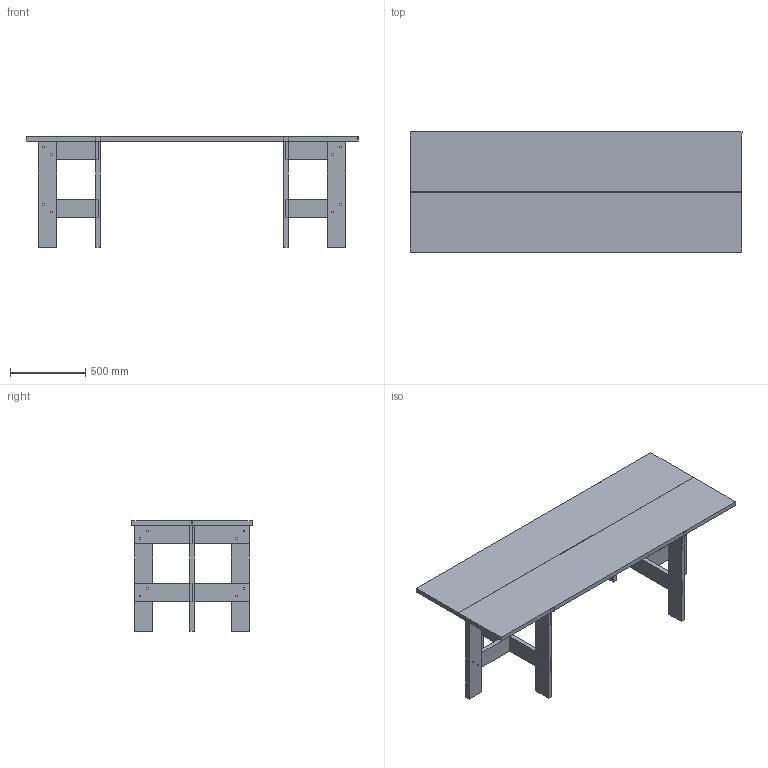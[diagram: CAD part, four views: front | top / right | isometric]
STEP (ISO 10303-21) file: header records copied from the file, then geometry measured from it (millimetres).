
FILE_DESCRIPTION(/* description */ (''),/* implementation_level */ '2;1');
FILE_NAME(/* name */ 'FRAMA_Farmhouse-TrestleTable-L220-3D',/* time_stamp */ '2025-10-24T17:14:06+02:00',/* author */ (''),/* organization */ (''),/* preprocessor_version */ 'ST-DEVELOPER v16.5',/* originating_system */ 'Rhino 7.38',/* authorisation */ '');
FILE_SCHEMA (('CONFIG_CONTROL_DESIGN'));
Length unit declared in the file: millimetre
Products named in the file (1): Document
Bounding box: 2200 x 804 x 734.78 mm (x, y, z)
Volume: 79102885 mm3; surface area: 6678648.1 mm2
Topology: 66 solids, 66 shells, 672 faces, 1620 edges, 1080 vertices
Faces by surface type: plane 664, cylinder 8
Entity records: 16968 total; most frequent: CARTESIAN_POINT 5058, ORIENTED_EDGE 3240, EDGE_CURVE 1620, B_SPLINE_CURVE_WITH_KNOTS 1524, VERTEX_POINT 1080, EDGE_LOOP 768, DIRECTION 676, AXIS2_PLACEMENT_3D 674
